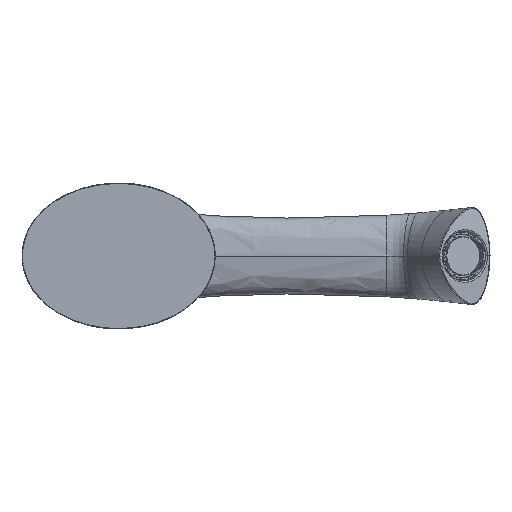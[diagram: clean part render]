
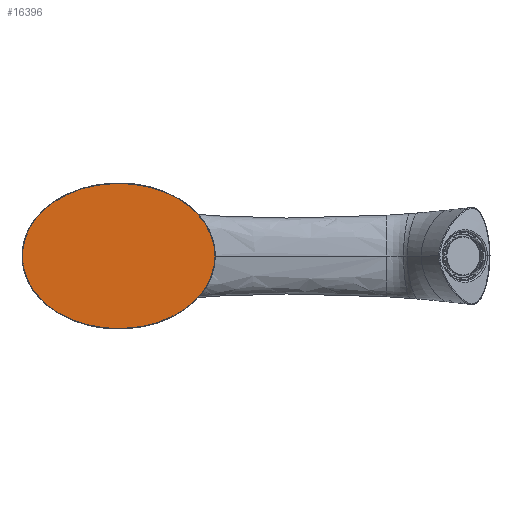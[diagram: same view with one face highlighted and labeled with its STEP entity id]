
A CAD part, front view. The second image highlights one B-rep face of the part: STEP entity #16396.
In plain terms, the highlighted planar face has unit normal (0, -1, 0).
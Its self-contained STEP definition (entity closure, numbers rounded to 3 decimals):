
#4513=CARTESIAN_POINT('',(-32.65,-5.,0.));
#4514=CARTESIAN_POINT('',(-32.65,-5.,-0.949));
#4515=CARTESIAN_POINT('',(-32.506,-5.,-2.852));
#4516=CARTESIAN_POINT('',(-31.874,-5.,-5.643));
#4517=CARTESIAN_POINT('',(-30.845,-5.,-8.321));
#4518=CARTESIAN_POINT('',(-29.457,-5.,-10.845));
#4519=CARTESIAN_POINT('',(-27.746,-5.,-13.187));
#4520=CARTESIAN_POINT('',(-25.752,-5.,-15.331));
#4521=CARTESIAN_POINT('',(-23.507,-5.,-17.266));
#4522=CARTESIAN_POINT('',(-21.044,-5.,-18.985));
#4523=CARTESIAN_POINT('',(-18.391,-5.,-20.484));
#4524=CARTESIAN_POINT('',(-15.576,-5.,-21.76));
#4525=CARTESIAN_POINT('',(-12.625,-5.,-22.81));
#4526=CARTESIAN_POINT('',(-9.565,-5.,-23.63));
#4527=CARTESIAN_POINT('',(-6.423,-5.,-24.218));
#4528=CARTESIAN_POINT('',(-3.225,-5.,-24.571));
#4529=CARTESIAN_POINT('',(0.,-5.,-24.689));
#4530=CARTESIAN_POINT('',(3.225,-5.,-24.571));
#4531=CARTESIAN_POINT('',(6.423,-5.,-24.218));
#4532=CARTESIAN_POINT('',(9.565,-5.,-23.63));
#4533=CARTESIAN_POINT('',(12.625,-5.,-22.81));
#4534=CARTESIAN_POINT('',(15.576,-5.,-21.76));
#4535=CARTESIAN_POINT('',(18.391,-5.,-20.484));
#4536=CARTESIAN_POINT('',(21.044,-5.,-18.985));
#4537=CARTESIAN_POINT('',(23.507,-5.,-17.266));
#4538=CARTESIAN_POINT('',(25.752,-5.,-15.331));
#4539=CARTESIAN_POINT('',(27.746,-5.,-13.187));
#4540=CARTESIAN_POINT('',(29.457,-5.,-10.845));
#4541=CARTESIAN_POINT('',(30.845,-5.,-8.321));
#4542=CARTESIAN_POINT('',(31.874,-5.,-5.643));
#4543=CARTESIAN_POINT('',(32.506,-5.,-2.852));
#4544=CARTESIAN_POINT('',(32.65,-5.,-0.949));
#4545=CARTESIAN_POINT('',(32.65,-5.,0.));
#4547=CARTESIAN_POINT('',(32.65,-5.,0.));
#4548=CARTESIAN_POINT('',(32.65,-5.,0.949));
#4549=CARTESIAN_POINT('',(32.506,-5.,2.852));
#4550=CARTESIAN_POINT('',(31.874,-5.,5.643));
#4551=CARTESIAN_POINT('',(30.845,-5.,8.321));
#4552=CARTESIAN_POINT('',(29.457,-5.,10.845));
#4553=CARTESIAN_POINT('',(27.746,-5.,13.187));
#4554=CARTESIAN_POINT('',(25.752,-5.,15.331));
#4555=CARTESIAN_POINT('',(23.507,-5.,17.266));
#4556=CARTESIAN_POINT('',(21.044,-5.,18.985));
#4557=CARTESIAN_POINT('',(18.391,-5.,20.484));
#4558=CARTESIAN_POINT('',(15.576,-5.,21.76));
#4559=CARTESIAN_POINT('',(12.625,-5.,22.81));
#4560=CARTESIAN_POINT('',(9.565,-5.,23.63));
#4561=CARTESIAN_POINT('',(6.423,-5.,24.218));
#4562=CARTESIAN_POINT('',(3.225,-5.,24.571));
#4563=CARTESIAN_POINT('',(0.,-5.,24.689));
#4564=CARTESIAN_POINT('',(-3.225,-5.,24.571));
#4565=CARTESIAN_POINT('',(-6.423,-5.,24.218));
#4566=CARTESIAN_POINT('',(-9.565,-5.,23.63));
#4567=CARTESIAN_POINT('',(-12.625,-5.,22.81));
#4568=CARTESIAN_POINT('',(-15.576,-5.,21.76));
#4569=CARTESIAN_POINT('',(-18.391,-5.,20.484));
#4570=CARTESIAN_POINT('',(-21.044,-5.,18.985));
#4571=CARTESIAN_POINT('',(-23.507,-5.,17.266));
#4572=CARTESIAN_POINT('',(-25.752,-5.,15.331));
#4573=CARTESIAN_POINT('',(-27.746,-5.,13.187));
#4574=CARTESIAN_POINT('',(-29.457,-5.,10.845));
#4575=CARTESIAN_POINT('',(-30.845,-5.,8.321));
#4576=CARTESIAN_POINT('',(-31.874,-5.,5.643));
#4577=CARTESIAN_POINT('',(-32.506,-5.,2.852));
#4578=CARTESIAN_POINT('',(-32.65,-5.,0.949));
#4579=CARTESIAN_POINT('',(-32.65,-5.,0.));
#9048=VERTEX_POINT('',#4513);
#9049=VERTEX_POINT('',#4545);
#16387=CARTESIAN_POINT('',(0.,-5.,0.));
#16388=DIRECTION('',(0.,-1.,0.));
#16389=DIRECTION('',(1.,0.,0.));
#16390=AXIS2_PLACEMENT_3D('',#16387,#16388,#16389);
#16391=PLANE('',#16390);
#16392=ORIENTED_EDGE('',*,*,#16333,.F.);
#16393=ORIENTED_EDGE('',*,*,#16381,.F.);
#16394=EDGE_LOOP('',(#16392,#16393));
#16395=FACE_OUTER_BOUND('',#16394,.F.);
#16396=ADVANCED_FACE('',(#16395),#16391,.T.);
#4546=B_SPLINE_CURVE_WITH_KNOTS('',3,(#4513,#4514,#4515,#4516,#4517,#4518,#4519,
#4520,#4521,#4522,#4523,#4524,#4525,#4526,#4527,#4528,#4529,#4530,#4531,#4532,
#4533,#4534,#4535,#4536,#4537,#4538,#4539,#4540,#4541,#4542,#4543,#4544,#4545),
.UNSPECIFIED.,.F.,.F.,(4,1,1,1,1,1,1,1,1,1,1,1,1,1,1,1,1,1,1,1,1,1,1,1,1,1,1,1,
1,1,4),(0.,0.031,0.063,0.095,
0.126,0.158,0.19,0.223,
0.256,0.29,0.324,0.358,
0.393,0.429,0.464,0.5,0.536,
0.571,0.607,0.642,0.676,
0.71,0.744,0.777,0.81,
0.842,0.874,0.905,0.937,
0.969,1.),.UNSPECIFIED.);
#4580=B_SPLINE_CURVE_WITH_KNOTS('',3,(#4547,#4548,#4549,#4550,#4551,#4552,#4553,
#4554,#4555,#4556,#4557,#4558,#4559,#4560,#4561,#4562,#4563,#4564,#4565,#4566,
#4567,#4568,#4569,#4570,#4571,#4572,#4573,#4574,#4575,#4576,#4577,#4578,#4579),
.UNSPECIFIED.,.F.,.F.,(4,1,1,1,1,1,1,1,1,1,1,1,1,1,1,1,1,1,1,1,1,1,1,1,1,1,1,1,
1,1,4),(0.,0.031,0.063,0.095,
0.126,0.158,0.19,0.223,
0.256,0.29,0.324,0.358,
0.393,0.429,0.464,0.5,0.536,
0.571,0.607,0.642,0.676,
0.71,0.744,0.777,0.81,
0.842,0.874,0.905,0.937,
0.969,1.),.UNSPECIFIED.);
#16333=EDGE_CURVE('',#9048,#9049,#4546,.T.);
#16381=EDGE_CURVE('',#9049,#9048,#4580,.T.);
